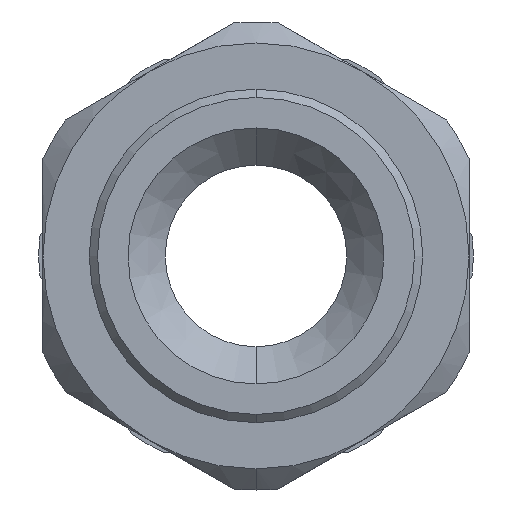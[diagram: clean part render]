
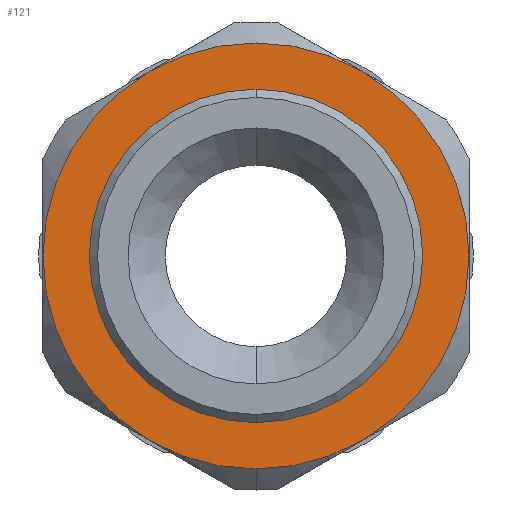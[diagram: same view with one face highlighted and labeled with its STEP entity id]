
A CAD part, front view. The second image highlights one B-rep face of the part: STEP entity #121.
In plain terms, the highlighted planar face has unit normal (0, -1, 0).
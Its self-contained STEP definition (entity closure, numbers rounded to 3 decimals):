
#5 = AXIS2_PLACEMENT_3D ( 'NONE', #1659, #1660, #1661 ) ;
#20 = AXIS2_PLACEMENT_3D ( 'NONE', #1662, #1663, #1664 ) ;
#34 = CIRCLE ( 'NONE', #587, 12.9 ) ;
#35 = CIRCLE ( 'NONE', #553, 12.9 ) ;
#64 = EDGE_CURVE ( 'NONE', #1086, #1074, #35, .T. ) ;
#65 = EDGE_CURVE ( 'NONE', #1063, #1045, #34, .T. ) ;
#66 = EDGE_CURVE ( 'NONE', #1068, #1063, #2432, .T. ) ;
#67 = EDGE_CURVE ( 'NONE', #1049, #1068, #2431, .T. ) ;
#68 = EDGE_CURVE ( 'NONE', #1074, #1055, #2478, .T. ) ;
#69 = EDGE_CURVE ( 'NONE', #1091, #1035, #2477, .T. ) ;
#70 = EDGE_CURVE ( 'NONE', #1055, #1049, #2476, .T. ) ;
#81 = EDGE_CURVE ( 'NONE', #1035, #1091, #2475, .T. ) ;
#121 = ADVANCED_FACE ( 'NONE', ( #648, #644 ), #1843, .F. ) ;
#258 = EDGE_CURVE ( 'NONE', #1045, #1086, #2375, .T. ) ;
#378 = AXIS2_PLACEMENT_3D ( 'NONE', #2360, #2361, #2362 ) ;
#486 = AXIS2_PLACEMENT_3D ( 'NONE', #1706, #1716, #1717 ) ;
#547 = AXIS2_PLACEMENT_3D ( 'NONE', #1668, #1669, #1670 ) ;
#553 = AXIS2_PLACEMENT_3D ( 'NONE', #1653, #1654, #1655 ) ;
#587 = AXIS2_PLACEMENT_3D ( 'NONE', #1656, #1657, #1658 ) ;
#641 = AXIS2_PLACEMENT_3D ( 'NONE', #1844, #1845, #1846 ) ;
#644 = FACE_OUTER_BOUND ( 'NONE', #1402, .T. ) ;
#648 = FACE_BOUND ( 'NONE', #1403, .T. ) ;
#675 = AXIS2_PLACEMENT_3D ( 'NONE', #1665, #1666, #1667 ) ;
#678 = AXIS2_PLACEMENT_3D ( 'NONE', #1671, #1672, #1673 ) ;
#863 = CARTESIAN_POINT ( 'NONE',  ( 0., 1., -10.1 ) ) ;
#873 = CARTESIAN_POINT ( 'NONE',  ( 0., 1., -12.9 ) ) ;
#877 = CARTESIAN_POINT ( 'NONE',  ( -6.45, 1., 11.172 ) ) ;
#883 = CARTESIAN_POINT ( 'NONE',  ( 6.45, 1., 11.172 ) ) ;
#891 = CARTESIAN_POINT ( 'NONE',  ( -6.45, 1., -11.172 ) ) ;
#896 = CARTESIAN_POINT ( 'NONE',  ( -12.9, 1., 0. ) ) ;
#902 = CARTESIAN_POINT ( 'NONE',  ( 12.9, 1., 0. ) ) ;
#914 = CARTESIAN_POINT ( 'NONE',  ( 6.45, 1., -11.172 ) ) ;
#919 = CARTESIAN_POINT ( 'NONE',  ( 0., 1., 10.1 ) ) ;
#1035 = VERTEX_POINT ( 'NONE', #863 ) ;
#1045 = VERTEX_POINT ( 'NONE', #873 ) ;
#1049 = VERTEX_POINT ( 'NONE', #877 ) ;
#1055 = VERTEX_POINT ( 'NONE', #883 ) ;
#1063 = VERTEX_POINT ( 'NONE', #891 ) ;
#1068 = VERTEX_POINT ( 'NONE', #896 ) ;
#1074 = VERTEX_POINT ( 'NONE', #902 ) ;
#1086 = VERTEX_POINT ( 'NONE', #914 ) ;
#1091 = VERTEX_POINT ( 'NONE', #919 ) ;
#1402 = EDGE_LOOP ( 'NONE', ( #1562, #1564, #1563, #1565, #1566, #1567, #1568 ) ) ;
#1403 = EDGE_LOOP ( 'NONE', ( #1560, #1561 ) ) ;
#1560 = ORIENTED_EDGE ( 'NONE', *, *, #81, .F. ) ;
#1561 = ORIENTED_EDGE ( 'NONE', *, *, #69, .F. ) ;
#1562 = ORIENTED_EDGE ( 'NONE', *, *, #68, .T. ) ;
#1563 = ORIENTED_EDGE ( 'NONE', *, *, #67, .T. ) ;
#1564 = ORIENTED_EDGE ( 'NONE', *, *, #70, .T. ) ;
#1565 = ORIENTED_EDGE ( 'NONE', *, *, #66, .T. ) ;
#1566 = ORIENTED_EDGE ( 'NONE', *, *, #65, .T. ) ;
#1567 = ORIENTED_EDGE ( 'NONE', *, *, #258, .T. ) ;
#1568 = ORIENTED_EDGE ( 'NONE', *, *, #64, .T. ) ;
#1653 = CARTESIAN_POINT ( 'NONE',  ( 0., 1., 0. ) ) ;
#1654 = DIRECTION ( 'NONE',  ( 0., -1., 0. ) ) ;
#1655 = DIRECTION ( 'NONE',  ( 0., 0., -1. ) ) ;
#1656 = CARTESIAN_POINT ( 'NONE',  ( 0., 1., 0. ) ) ;
#1657 = DIRECTION ( 'NONE',  ( 0., -1., 0. ) ) ;
#1658 = DIRECTION ( 'NONE',  ( 0., 0., -1. ) ) ;
#1659 = CARTESIAN_POINT ( 'NONE',  ( 0., 1., 0. ) ) ;
#1660 = DIRECTION ( 'NONE',  ( 0., -1., 0. ) ) ;
#1661 = DIRECTION ( 'NONE',  ( 0., 0., -1. ) ) ;
#1662 = CARTESIAN_POINT ( 'NONE',  ( 0., 1., 0. ) ) ;
#1663 = DIRECTION ( 'NONE',  ( 0., -1., 0. ) ) ;
#1664 = DIRECTION ( 'NONE',  ( 0., 0., -1. ) ) ;
#1665 = CARTESIAN_POINT ( 'NONE',  ( 0., 1., 0. ) ) ;
#1666 = DIRECTION ( 'NONE',  ( 0., -1., 0. ) ) ;
#1667 = DIRECTION ( 'NONE',  ( 0., 0., -1. ) ) ;
#1668 = CARTESIAN_POINT ( 'NONE',  ( 0., 1., 0. ) ) ;
#1669 = DIRECTION ( 'NONE',  ( 0., -1., 0. ) ) ;
#1670 = DIRECTION ( 'NONE',  ( 0., 0., -1. ) ) ;
#1671 = CARTESIAN_POINT ( 'NONE',  ( 0., 1., 0. ) ) ;
#1672 = DIRECTION ( 'NONE',  ( 0., -1., 0. ) ) ;
#1673 = DIRECTION ( 'NONE',  ( 0., 0., -1. ) ) ;
#1706 = CARTESIAN_POINT ( 'NONE',  ( 0., 1., 0. ) ) ;
#1716 = DIRECTION ( 'NONE',  ( 0., -1., 0. ) ) ;
#1717 = DIRECTION ( 'NONE',  ( 0., 0., -1. ) ) ;
#1843 = PLANE ( 'NONE',  #641 ) ;
#1844 = CARTESIAN_POINT ( 'NONE',  ( -14.175, 1., 0. ) ) ;
#1845 = DIRECTION ( 'NONE',  ( 0., 1., 0. ) ) ;
#1846 = DIRECTION ( 'NONE',  ( 0., 0., 1. ) ) ;
#2360 = CARTESIAN_POINT ( 'NONE',  ( 0., 1., 0. ) ) ;
#2361 = DIRECTION ( 'NONE',  ( 0., -1., 0. ) ) ;
#2362 = DIRECTION ( 'NONE',  ( 0., 0., -1. ) ) ;
#2375 = CIRCLE ( 'NONE', #378, 12.9 ) ;
#2431 = CIRCLE ( 'NONE', #20, 12.9 ) ;
#2432 = CIRCLE ( 'NONE', #5, 12.9 ) ;
#2475 = CIRCLE ( 'NONE', #486, 10.1 ) ;
#2476 = CIRCLE ( 'NONE', #678, 12.9 ) ;
#2477 = CIRCLE ( 'NONE', #547, 10.1 ) ;
#2478 = CIRCLE ( 'NONE', #675, 12.9 ) ;
